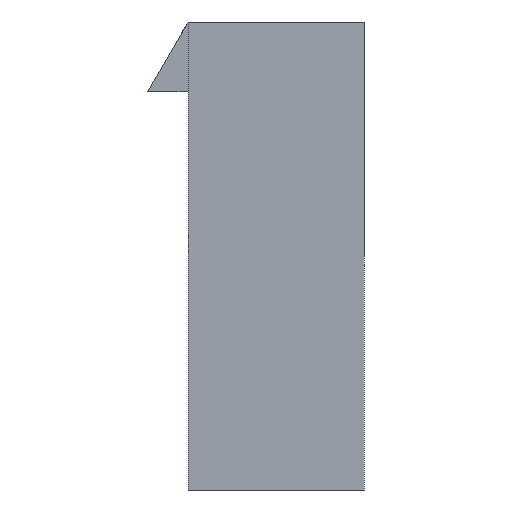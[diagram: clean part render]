
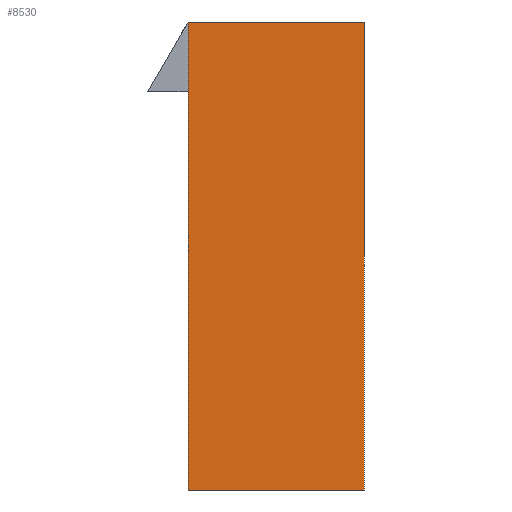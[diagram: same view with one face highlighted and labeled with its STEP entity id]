
A CAD part, left-side view. The second image highlights one B-rep face of the part: STEP entity #8530.
In plain terms, the highlighted planar face has unit normal (-1, 0, 0).
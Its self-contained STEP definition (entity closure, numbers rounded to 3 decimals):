
#1=DIRECTION('',(0.,-1.,0.));
#2=VECTOR('',#1,6.4);
#3=CARTESIAN_POINT('',(-25.705,6.4,0.));
#4=LINE('',#3,#2);
#5=DIRECTION('',(0.,0.,-1.));
#6=VECTOR('',#5,17.);
#7=CARTESIAN_POINT('',(-25.705,0.,0.));
#8=LINE('',#7,#6);
#9=DIRECTION('',(0.,1.,0.));
#10=VECTOR('',#9,6.4);
#11=CARTESIAN_POINT('',(-25.705,0.,-17.));
#12=LINE('',#11,#10);
#13=DIRECTION('',(0.,0.,1.));
#14=VECTOR('',#13,17.);
#15=CARTESIAN_POINT('',(-25.705,6.4,-17.));
#16=LINE('',#15,#14);
#6413=CARTESIAN_POINT('',(-25.705,6.4,0.));
#6414=CARTESIAN_POINT('',(-25.705,0.,0.));
#6415=VERTEX_POINT('',#6413);
#6416=VERTEX_POINT('',#6414);
#6417=CARTESIAN_POINT('',(-25.705,0.,-17.));
#6418=VERTEX_POINT('',#6417);
#6419=CARTESIAN_POINT('',(-25.705,6.4,-17.));
#6420=VERTEX_POINT('',#6419);
#8515=CARTESIAN_POINT('',(-25.705,0.,0.));
#8516=DIRECTION('',(1.,0.,0.));
#8517=DIRECTION('',(0.,0.,-1.));
#8518=AXIS2_PLACEMENT_3D('',#8515,#8516,#8517);
#8519=PLANE('',#8518);
#8521=ORIENTED_EDGE('',*,*,#8520,.T.);
#8523=ORIENTED_EDGE('',*,*,#8522,.T.);
#8525=ORIENTED_EDGE('',*,*,#8524,.T.);
#8527=ORIENTED_EDGE('',*,*,#8526,.T.);
#8528=EDGE_LOOP('',(#8521,#8523,#8525,#8527));
#8529=FACE_OUTER_BOUND('',#8528,.F.);
#8530=ADVANCED_FACE('',(#8529),#8519,.F.);
#8520=EDGE_CURVE('',#6415,#6416,#4,.T.);
#8522=EDGE_CURVE('',#6416,#6418,#8,.T.);
#8524=EDGE_CURVE('',#6418,#6420,#12,.T.);
#8526=EDGE_CURVE('',#6420,#6415,#16,.T.);
